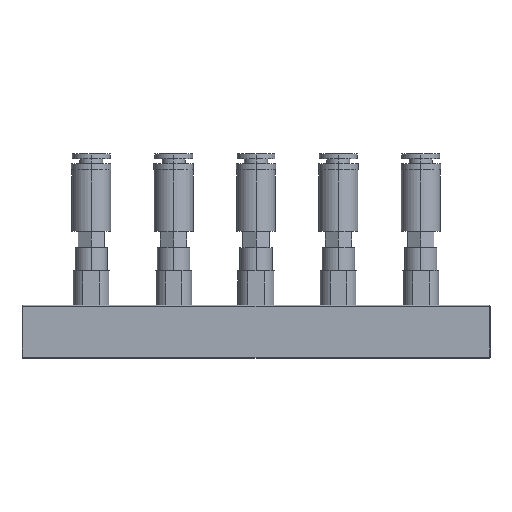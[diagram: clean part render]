
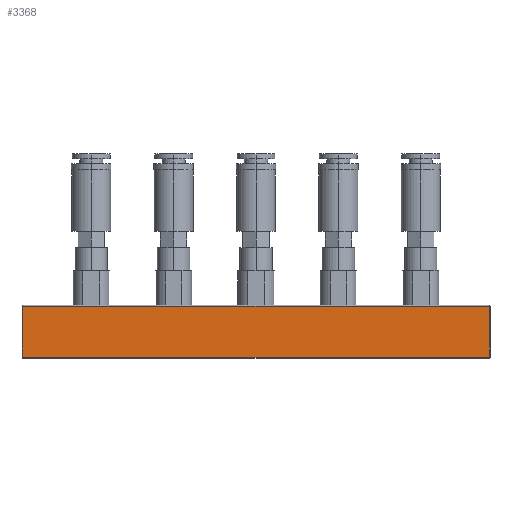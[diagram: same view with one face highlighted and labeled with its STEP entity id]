
A CAD part, top view. The second image highlights one B-rep face of the part: STEP entity #3368.
In plain terms, the highlighted planar face has unit normal (0, 0, 1).
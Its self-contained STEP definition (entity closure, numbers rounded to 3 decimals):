
#226 = CARTESIAN_POINT ( 'NONE',  ( -70.7, 15.7, 8. ) ) ;
#282 = CARTESIAN_POINT ( 'NONE',  ( -71., 16., 8. ) ) ;
#382 = LINE ( 'NONE', #428, #4555 ) ;
#428 = CARTESIAN_POINT ( 'NONE',  ( -70.7, 16., 8. ) ) ;
#483 = DIRECTION ( 'NONE',  ( 0., 1., 0. ) ) ;
#668 = VERTEX_POINT ( 'NONE', #226 ) ;
#1128 = EDGE_CURVE ( 'NONE', #4568, #4322, #2758, .T. ) ;
#1236 = LINE ( 'NONE', #3007, #2093 ) ;
#1293 = EDGE_LOOP ( 'NONE', ( #3026, #1351, #3506, #1935 ) ) ;
#1311 = VECTOR ( 'NONE', #483, 1000. ) ;
#1351 = ORIENTED_EDGE ( 'NONE', *, *, #4772, .T. ) ;
#1530 = EDGE_CURVE ( 'NONE', #2558, #4568, #2753, .T. ) ;
#1884 = VECTOR ( 'NONE', #3787, 1000. ) ;
#1935 = ORIENTED_EDGE ( 'NONE', *, *, #1128, .T. ) ;
#1970 = DIRECTION ( 'NONE',  ( 0., -1., 0. ) ) ;
#2093 = VECTOR ( 'NONE', #2201, 1000. ) ;
#2131 = DIRECTION ( 'NONE',  ( -1., 0., 0. ) ) ;
#2201 = DIRECTION ( 'NONE',  ( -1., 0., 0. ) ) ;
#2390 = FACE_OUTER_BOUND ( 'NONE', #1293, .T. ) ;
#2558 = VERTEX_POINT ( 'NONE', #3598 ) ;
#2753 = LINE ( 'NONE', #3380, #1884 ) ;
#2758 = LINE ( 'NONE', #4545, #1311 ) ;
#2829 = CARTESIAN_POINT ( 'NONE',  ( 70.7, 0.3, 8. ) ) ;
#2848 = DIRECTION ( 'NONE',  ( 0., 0., -1. ) ) ;
#3007 = CARTESIAN_POINT ( 'NONE',  ( -71., 15.7, 8. ) ) ;
#3026 = ORIENTED_EDGE ( 'NONE', *, *, #4141, .T. ) ;
#3368 = ADVANCED_FACE ( 'NONE', ( #2390 ), #4389, .F. ) ;
#3380 = CARTESIAN_POINT ( 'NONE',  ( 71., 0.3, 8. ) ) ;
#3506 = ORIENTED_EDGE ( 'NONE', *, *, #1530, .T. ) ;
#3598 = CARTESIAN_POINT ( 'NONE',  ( -70.7, 0.3, 8. ) ) ;
#3787 = DIRECTION ( 'NONE',  ( 1., 0., 0. ) ) ;
#4082 = AXIS2_PLACEMENT_3D ( 'NONE', #282, #2848, #2131 ) ;
#4141 = EDGE_CURVE ( 'NONE', #4322, #668, #1236, .T. ) ;
#4212 = CARTESIAN_POINT ( 'NONE',  ( 70.7, 15.7, 8. ) ) ;
#4322 = VERTEX_POINT ( 'NONE', #4212 ) ;
#4389 = PLANE ( 'NONE',  #4082 ) ;
#4545 = CARTESIAN_POINT ( 'NONE',  ( 70.7, 16., 8. ) ) ;
#4555 = VECTOR ( 'NONE', #1970, 1000. ) ;
#4568 = VERTEX_POINT ( 'NONE', #2829 ) ;
#4772 = EDGE_CURVE ( 'NONE', #668, #2558, #382, .T. ) ;
